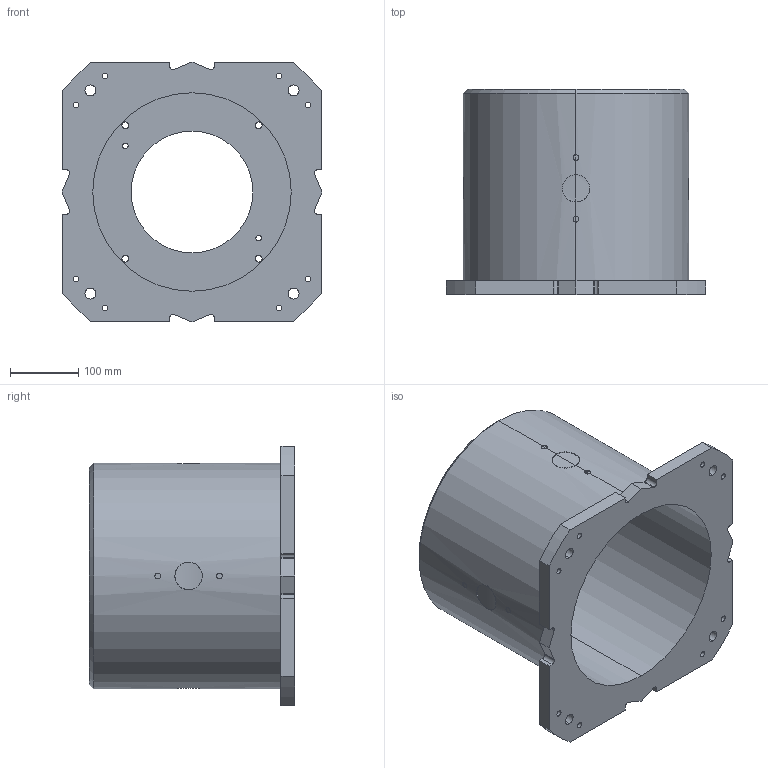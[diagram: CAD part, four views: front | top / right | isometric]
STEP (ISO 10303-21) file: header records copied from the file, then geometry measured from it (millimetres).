
FILE_DESCRIPTION (( 'STEP AP214' ), '1' );
FILE_NAME ('E-300.STEP', '2025-12-05T12:39:51', ( '' ), ( '' ), 'SwSTEP 2.0', 'SolidWorks 2022', '' );
FILE_SCHEMA (( 'AUTOMOTIVE_DESIGN' ));
Length unit declared in the file: millimetre
Products named in the file (1): E-300
Bounding box: 380 x 300 x 380 mm (x, y, z)
Volume: 7603202.5 mm3; surface area: 821396 mm2
Topology: 1 solids, 1 shells, 131 faces, 361 edges, 240 vertices
Faces by surface type: cylinder 93, plane 28, bspline 8, cone 2
Entity records: 7560 total; most frequent: CARTESIAN_POINT 3677, ORIENTED_EDGE 722, DIRECTION 661, EDGE_CURVE 361, AXIS2_PLACEMENT_3D 250, VERTEX_POINT 240, EDGE_LOOP 177, VECTOR 161
